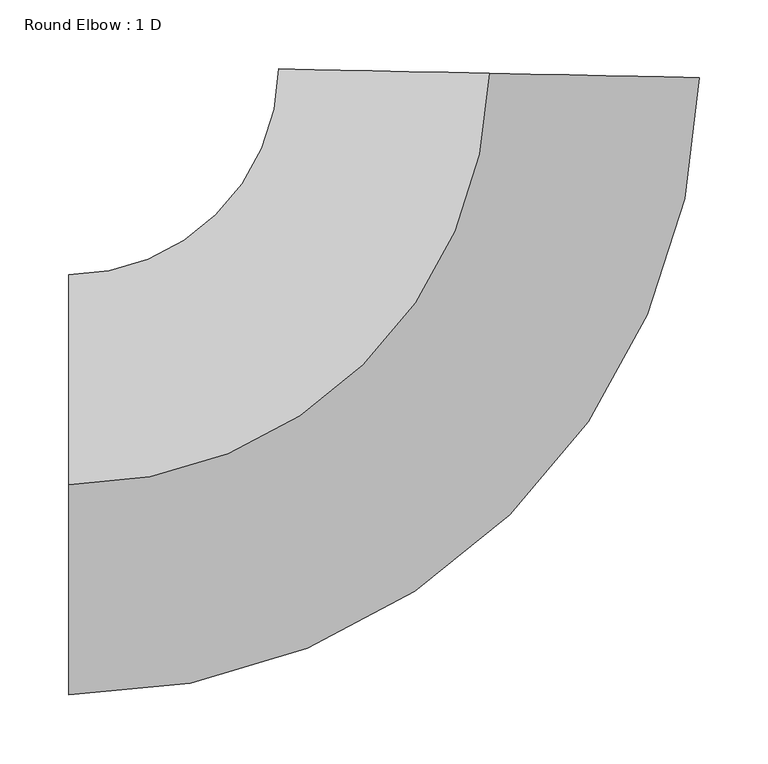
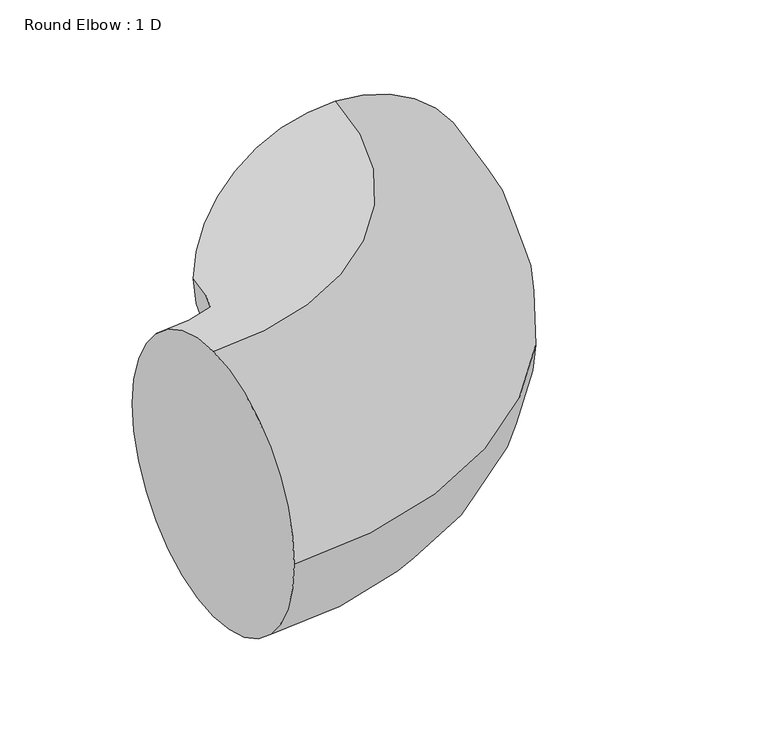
"""IFC4 building model written with IfcOpenShell, lengths in millimetres: duct fitting geometry, Round Elbow : 1 D."""

from ifc_helpers import new_model, si_unit, point, frame, origin, place, context, project, spatial, circle_curve, ellipse_curve, trimmed, source, transform, mapped, element, save
from ifc_brep_helpers import plane_surface, revolved_surface, advanced_brep


def round_elbow_1_d_90614eb6(model_context):
    return source(origin(), model_context, "Body", "AdvancedBrep", [
        advanced_brep(
        [(-298.5161387, 0.0, 152.4), (-298.5161387, 152.4, 0.0), (-298.5161387, 0.0, -152.4), (-298.5161387, -152.4, 0.0), (6.217737, 298.4513776, 152.4), (158.5846749, 295.2770664, 0.0), (6.217737, 298.4513776, -152.4), (-146.1492008, 301.6256888, 0.0)],
        [
            (0, 1, circle_curve(frame((-298.5161387, 0.0, 0.0), z_axis=(-1.0, 0.0, 0.0), x_axis=(0.0, 1.0, 0.0)), 152.4)),
            (1, 2, circle_curve(frame((-298.5161387, 0.0, 0.0), z_axis=(-1.0, 0.0, 0.0), x_axis=(0.0, 1.0, 0.0)), 152.4)),
            (2, 3, circle_curve(frame((-298.5161387, 0.0, 0.0), z_axis=(-1.0, 0.0, 0.0), x_axis=(0.0, 1.0, 0.0)), 152.4)),
            (3, 0, circle_curve(frame((-298.5161387, 0.0, 0.0), z_axis=(-1.0, 0.0, 0.0), x_axis=(0.0, 1.0, 0.0)), 152.4)),
            (4, 5, circle_curve(frame((6.217737, 298.4513776, 0.0), z_axis=(0.02082881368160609, 0.9997830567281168, 0.0), x_axis=(-0.9997830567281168, 0.02082881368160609, 0.0)), 152.4)),
            (5, 6, circle_curve(frame((6.217737, 298.4513776, 0.0), z_axis=(0.02082881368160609, 0.9997830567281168, 0.0), x_axis=(-0.9997830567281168, 0.02082881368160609, 0.0)), 152.4)),
            (6, 7, circle_curve(frame((6.217737, 298.4513776, 0.0), z_axis=(0.02082881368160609, 0.9997830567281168, 0.0), x_axis=(-0.9997830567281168, 0.02082881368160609, 0.0)), 152.4)),
            (7, 4, circle_curve(frame((6.217737, 298.4513776, 0.0), z_axis=(0.02082881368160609, 0.9997830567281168, 0.0), x_axis=(-0.9997830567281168, 0.02082881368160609, 0.0)), 152.4)),
            (7, 1, circle_curve(frame((-298.5161387, 304.8, 0.0), z_axis=(0.0, 0.0, -1.0), x_axis=(0.0, -1.0, 0.0)), 152.4)),
            (0, 4, circle_curve(frame((-298.5161387, 304.8, 152.4), z_axis=(0.0, 0.0, 1.0), x_axis=(0.0, -1.0, 0.0)), 304.8)),
            (6, 2, circle_curve(frame((-298.5161387, 304.8, -152.4), z_axis=(0.0, 0.0, -1.0), x_axis=(0.0, -1.0, 0.0)), 304.8)),
            (5, 3, circle_curve(frame((-298.5161387, 304.8, 0.0), z_axis=(0.0, 0.0, -1.0), x_axis=(0.0, -1.0, 0.0)), 457.2)),
        ],
        [
            plane_surface(frame((-298.5161387, 0.0, 0.0), z_axis=(-1.0, 0.0, 0.0), x_axis=(0.0, 0.0, 1.0))),
            plane_surface(frame((6.217737, 298.4513776, 0.0), z_axis=(0.02082881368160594, 0.999783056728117, 0.0), x_axis=(0.0, 0.0, 1.0))),
            revolved_surface(trimmed(ellipse_curve(frame((-298.5161387, 0.0, 0.0), z_axis=(-1.0, 0.0, 0.0), x_axis=(0.0, 1.0, 0.0)), 152.4, 152.4), [point((-298.5161387, 0.0, 152.4))], [point((-298.5161387, 152.4, 0.0))], True, "CARTESIAN"), (-298.5161387, 304.8, 0.0), (0.0, 0.0, 1.0)),
            revolved_surface(trimmed(ellipse_curve(frame((-298.5161387, 0.0, 0.0), z_axis=(-1.0, 0.0, 0.0), x_axis=(0.0, 1.0, 0.0)), 152.4, 152.4), [point((-298.5161387, 152.4, 0.0))], [point((-298.5161387, 0.0, -152.4))], True, "CARTESIAN"), (-298.5161387, 304.8, 0.0), (0.0, 0.0, 1.0)),
            revolved_surface(trimmed(ellipse_curve(frame((-298.5161387, 0.0, 0.0), z_axis=(-1.0, 0.0, 0.0), x_axis=(0.0, 1.0, 0.0)), 152.4, 152.4), [point((-298.5161387, 0.0, -152.4))], [point((-298.5161387, -152.4, 0.0))], True, "CARTESIAN"), (-298.5161387, 304.8, 0.0), (0.0, 0.0, 1.0)),
            revolved_surface(trimmed(ellipse_curve(frame((-298.5161387, 0.0, 0.0), z_axis=(-1.0, 0.0, 0.0), x_axis=(0.0, 1.0, 0.0)), 152.4, 152.4), [point((-298.5161387, -152.4, 0.0))], [point((-298.5161387, 0.0, 152.4))], True, "CARTESIAN"), (-298.5161387, 304.8, 0.0), (0.0, 0.0, 1.0)),
        ],
        [
            (0, [[1, 2, 3, 4]]),
            (1, [[5, 6, 7, 8]]),
            (2, [[9, -1, 10, -8]]),
            (3, [[11, -2, -9, -7]]),
            (4, [[12, -3, -11, -6]]),
            (5, [[-10, -4, -12, -5]]),
        ],
    ),
    ])


if __name__ == "__main__":
    model = new_model("IFC4")
    model_context = context("Model", 3, world=origin())
    ifc_project = project(units=[si_unit("LENGTHUNIT", "METRE", prefix="MILLI")], contexts=[model_context])
    site = spatial("IfcSite", under=ifc_project)
    building = spatial("IfcBuilding", under=site)
    placement = place(None, origin())
    round_elbow_1_d_shape = round_elbow_1_d_90614eb6(model_context)
    element("IfcDuctFitting", 1, ObjectType="Round Elbow : 1 D", at=placement, inside=building, context=model_context, shape_type="MappedRepresentation", body=[
        mapped(round_elbow_1_d_shape, transform((0.0, 0.0, 0.0), x_axis=(1.0, 0.0, 0.0), y_axis=(0.0, 1.0, 0.0), z_axis=(0.0, 0.0, 1.0))),
    ])
    save(model, "model.ifc")
